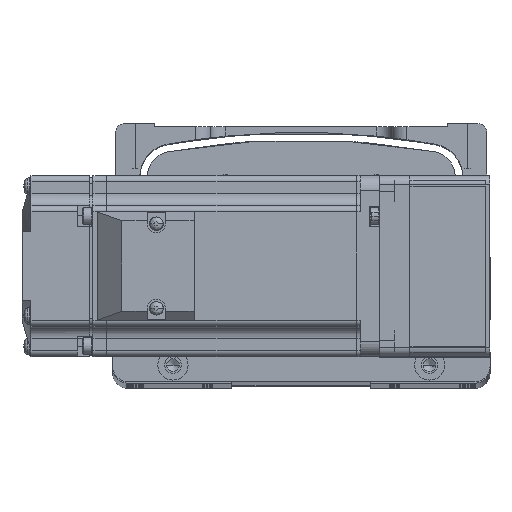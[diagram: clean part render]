
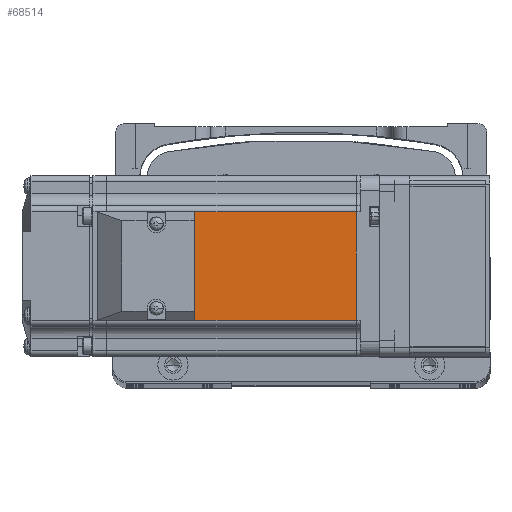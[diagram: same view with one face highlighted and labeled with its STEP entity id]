
A CAD part, top view. The second image highlights one B-rep face of the part: STEP entity #68514.
In plain terms, the highlighted planar face has unit normal (0, 0, 1) as drawn and (0, 1, 0) by its records, which use the part's own axes.
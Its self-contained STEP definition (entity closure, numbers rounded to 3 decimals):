
#1835 = EDGE_LOOP ( 'NONE', ( #13457, #31453, #41254, #30206 ) ) ;
#1925 = DIRECTION ( 'NONE',  ( 0., 0., 1. ) ) ;
#3475 = LINE ( 'NONE', #76854, #18767 ) ;
#4905 = CARTESIAN_POINT ( 'NONE',  ( -6.5, 30., -18. ) ) ;
#8979 = DIRECTION ( 'NONE',  ( 0., 0., 1. ) ) ;
#13457 = ORIENTED_EDGE ( 'NONE', *, *, #63714, .F. ) ;
#14578 = VECTOR ( 'NONE', #8979, 1000. ) ;
#18767 = VECTOR ( 'NONE', #44548, 1000. ) ;
#21802 = CARTESIAN_POINT ( 'NONE',  ( -7.75, 30., 0. ) ) ;
#30206 = ORIENTED_EDGE ( 'NONE', *, *, #35100, .T. ) ;
#30853 = DIRECTION ( 'NONE',  ( -1., 0., 0. ) ) ;
#31453 = ORIENTED_EDGE ( 'NONE', *, *, #38934, .T. ) ;
#35100 = EDGE_CURVE ( 'NONE', #48151, #35366, #65907, .T. ) ;
#35245 = CARTESIAN_POINT ( 'NONE',  ( -7.75, 30., -18. ) ) ;
#35366 = VERTEX_POINT ( 'NONE', #81614 ) ;
#38934 = EDGE_CURVE ( 'NONE', #58906, #76477, #61912, .T. ) ;
#40889 = DIRECTION ( 'NONE',  ( 0., 1., 0. ) ) ;
#41254 = ORIENTED_EDGE ( 'NONE', *, *, #52258, .T. ) ;
#41612 = AXIS2_PLACEMENT_3D ( 'NONE', #79779, #40889, #1925 ) ;
#44548 = DIRECTION ( 'NONE',  ( 0., 0., 1. ) ) ;
#46646 = CARTESIAN_POINT ( 'NONE',  ( -90.45, 30., -18. ) ) ;
#47187 = PLANE ( 'NONE',  #41612 ) ;
#48151 = VERTEX_POINT ( 'NONE', #56861 ) ;
#48655 = VECTOR ( 'NONE', #63257, 1000. ) ;
#52258 = EDGE_CURVE ( 'NONE', #76477, #48151, #3475, .T. ) ;
#55893 = FACE_OUTER_BOUND ( 'NONE', #1835, .T. ) ;
#56861 = CARTESIAN_POINT ( 'NONE',  ( -90.45, 30., 18. ) ) ;
#58906 = VERTEX_POINT ( 'NONE', #35245 ) ;
#59844 = VECTOR ( 'NONE', #30853, 1000. ) ;
#61912 = LINE ( 'NONE', #4905, #59844 ) ;
#62970 = CARTESIAN_POINT ( 'NONE',  ( -6.5, 30., 18. ) ) ;
#63257 = DIRECTION ( 'NONE',  ( 1., 0., 0. ) ) ;
#63714 = EDGE_CURVE ( 'NONE', #58906, #35366, #83697, .T. ) ;
#65907 = LINE ( 'NONE', #62970, #48655 ) ;
#68514 = ADVANCED_FACE ( 'NONE', ( #55893 ), #47187, .T. ) ;
#76477 = VERTEX_POINT ( 'NONE', #46646 ) ;
#76854 = CARTESIAN_POINT ( 'NONE',  ( -90.45, 30., 0. ) ) ;
#79779 = CARTESIAN_POINT ( 'NONE',  ( -6.5, 30., 25. ) ) ;
#81614 = CARTESIAN_POINT ( 'NONE',  ( -7.75, 30., 18. ) ) ;
#83697 = LINE ( 'NONE', #21802, #14578 ) ;
